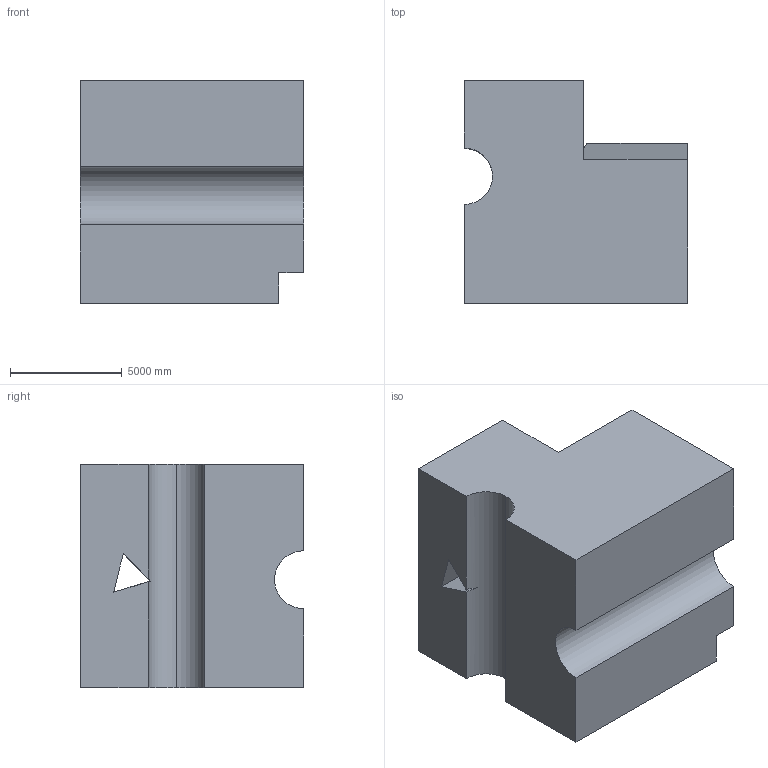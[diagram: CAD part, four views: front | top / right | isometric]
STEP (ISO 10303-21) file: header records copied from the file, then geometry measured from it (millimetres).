
FILE_DESCRIPTION (( 'STEP AP203' ), '1' );
FILE_NAME ('118.STEP', '2022-08-31T11:41:33', ( 'user' ), ( '' ), 'SwSTEP 2.0', 'SolidWorks 2021', '' );
FILE_SCHEMA (( 'CONFIG_CONTROL_DESIGN' ));
Length unit declared in the file: centimetre
Products named in the file (1): 118
Bounding box: 10000 x 10000 x 10000 mm (x, y, z)
Volume: 729523205018.8 mm3; surface area: 647403011.4 mm2
Topology: 1 solids, 1 shells, 25 faces, 75 edges, 50 vertices
Faces by surface type: plane 20, cylinder 5
Entity records: 920 total; most frequent: CARTESIAN_POINT 184, ORIENTED_EDGE 150, DIRECTION 126, EDGE_CURVE 75, LINE 54, VECTOR 54, VERTEX_POINT 50, AXIS2_PLACEMENT_3D 36
